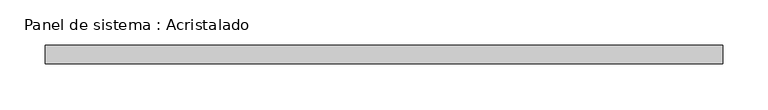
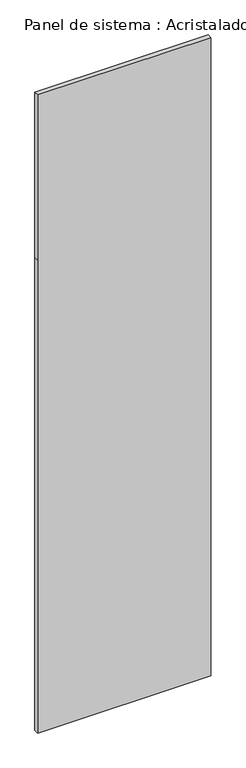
"""IFC4 building model written with IfcOpenShell, lengths in millimetres: plate geometry, Panel de sistema : Acristalado."""

from ifc_helpers import new_model, si_unit, frame, origin, place, context, project, spatial, polyline, outline, extrude, source, transform, mapped, element, save


def panel_de_sistema_acristalado_3b8b9301(model_context):
    return source(origin(), model_context, "Body", "SweptSolid", [
        extrude(outline(polyline([(0.0, -372.5), (0.0, 372.5), (2150.0, 372.5), (2900.0, 372.5), (2900.0, -372.5), (2150.0, -372.5), (0.0, -372.5)])), frame((0.0, -10.0, 0.0), z_axis=(0.0, 1.0, 0.0), x_axis=(0.0, 0.0, 1.0)), (0.0, 0.0, 1.0), 20.0),
    ])


if __name__ == "__main__":
    model = new_model("IFC4")
    model_context = context("Model", 3, world=origin())
    ifc_project = project(units=[si_unit("LENGTHUNIT", "METRE", prefix="MILLI")], contexts=[model_context])
    site = spatial("IfcSite", under=ifc_project)
    building = spatial("IfcBuilding", under=site)
    placement = place(None, origin())
    panel_de_sistema_acristalado_shape = panel_de_sistema_acristalado_3b8b9301(model_context)
    element("IfcPlate", 1, ObjectType="Panel de sistema : Acristalado", at=placement, inside=building, context=model_context, shape_type="MappedRepresentation", body=[
        mapped(panel_de_sistema_acristalado_shape, transform((0.0, 0.0, 0.0), x_axis=(1.0, 0.0, 0.0), y_axis=(0.0, 1.0, 0.0), z_axis=(0.0, 0.0, 1.0))),
    ])
    save(model, "model.ifc")
